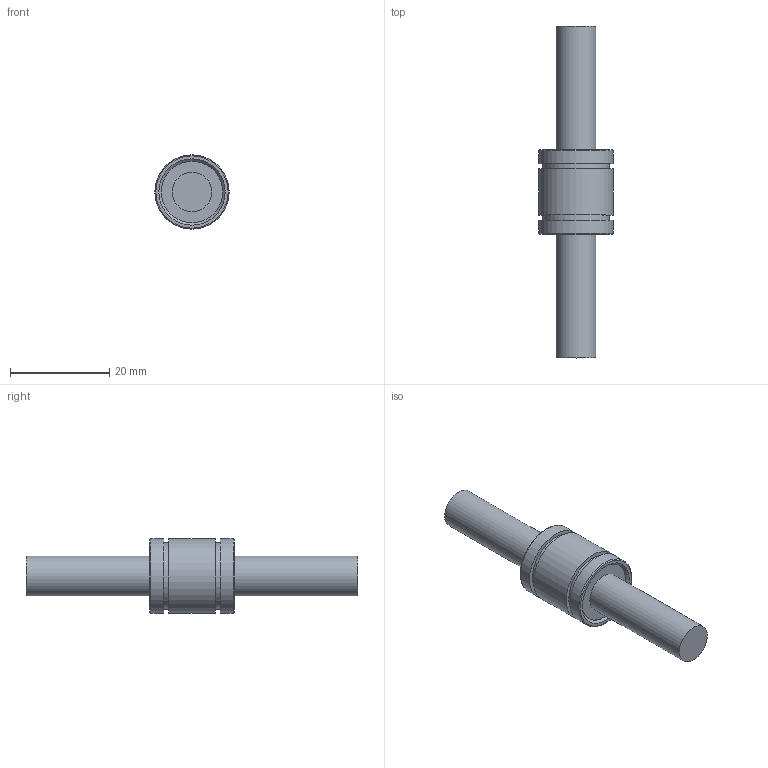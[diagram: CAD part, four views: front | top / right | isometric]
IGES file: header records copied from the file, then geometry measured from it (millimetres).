
Global section: file name: No Iges File Name specified; native system: Autodesk Inventor 2012; preprocessor: AutoDesk Inventor Iges Exporter R2012; author: user2; date: 20130206.095948; units: millimetre
Bounding box: 15 x 67 x 15 mm (x, y, z)
Volume: 5350.6 mm3; surface area: 2583.1 mm2
Topology: 1 solids, 1 shells, 23 faces, 37 edges, 24 vertices
Faces by surface type: plane 10, cylinder 7, revolution 4, torus 2
Full cylindrical faces by diameter (mm): 8 x2, 13.4 x2, 15 x3
